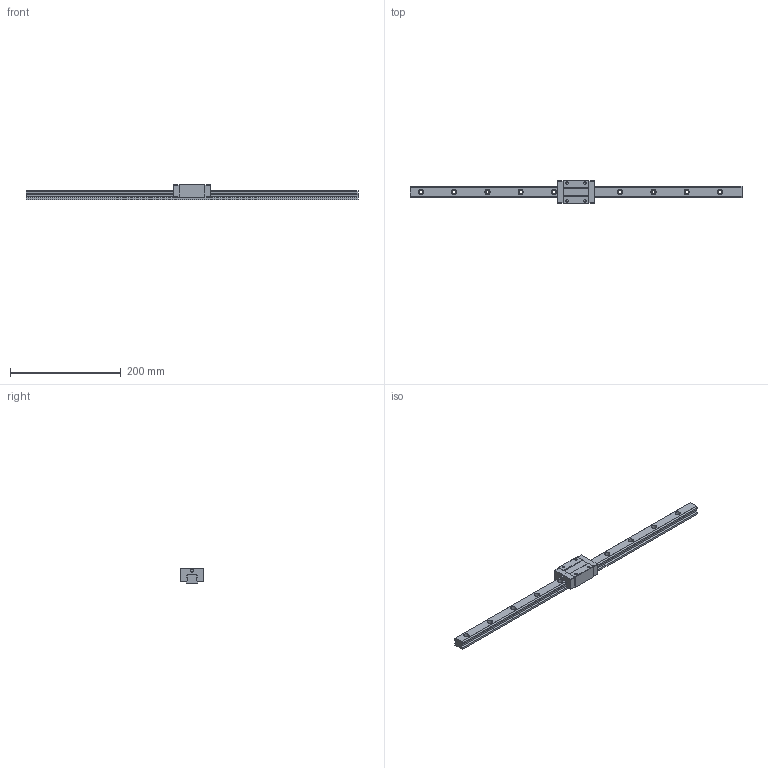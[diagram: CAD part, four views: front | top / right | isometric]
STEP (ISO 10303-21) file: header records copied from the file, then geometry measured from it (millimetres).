
FILE_DESCRIPTION (( 'STEP AP203' ), '1' );
FILE_NAME ('TRS20VN-XN-§ï.STEP', '2023-08-31T07:17:42', ( '' ), ( '' ), 'SwSTEP 2.0', 'SolidWorks 2022', '' );
FILE_SCHEMA (( 'CONFIG_CONTROL_DESIGN' ));
Length unit declared in the file: millimetre
Products named in the file (1): TRS20VN-XN-改
Bounding box: 600 x 42 x 28 mm (x, y, z)
Volume: 219335.2 mm3; surface area: 60137.9 mm2
Topology: 1 solids, 1 shells, 177 faces, 476 edges, 314 vertices
Faces by surface type: plane 89, cylinder 88
Entity records: 5709 total; most frequent: DIRECTION 1010, CARTESIAN_POINT 968, ORIENTED_EDGE 952, EDGE_CURVE 476, AXIS2_PLACEMENT_3D 356, VERTEX_POINT 314, LINE 298, VECTOR 298
